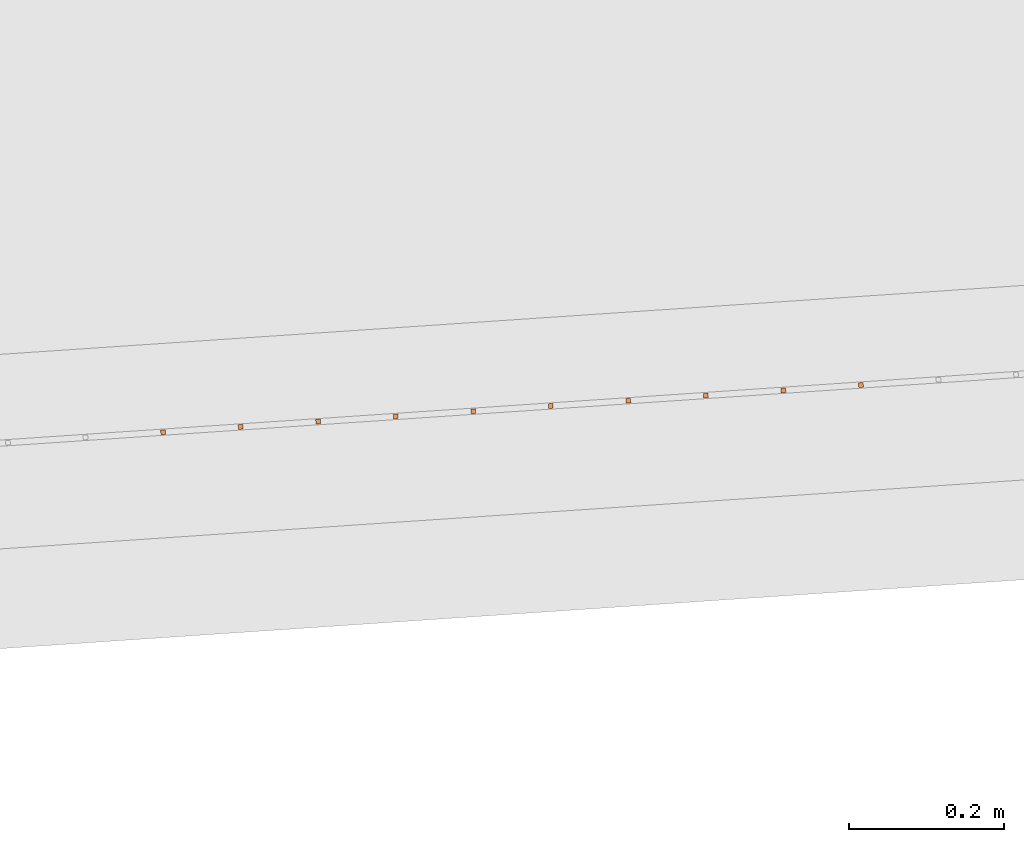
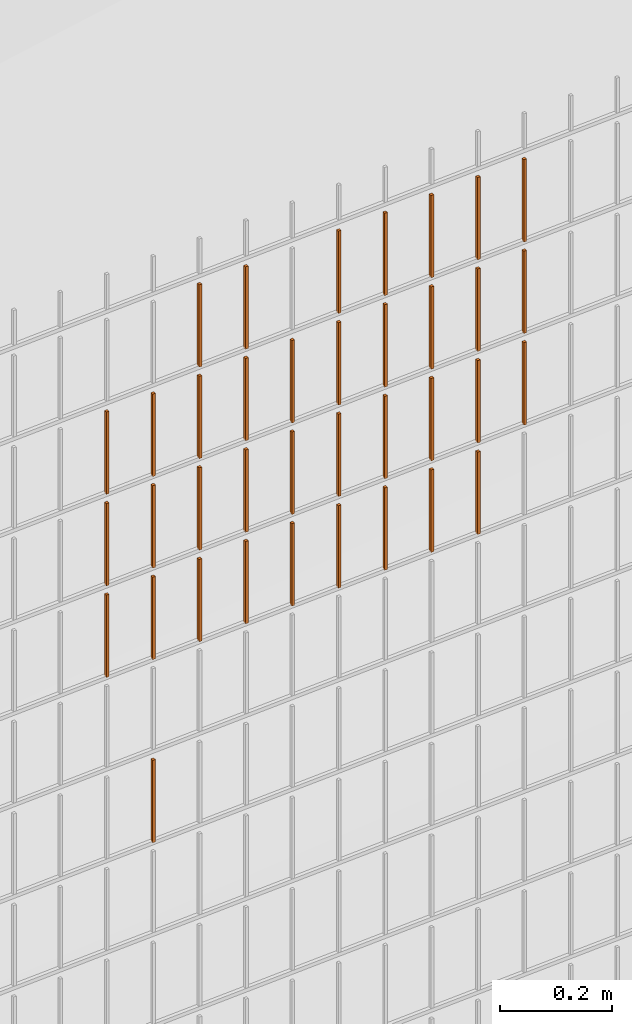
# One storey, part 143 of 1809: 37 proxies, 1 element without a shape of its own.
"""IFC2X3 building model written with IfcOpenShell, lengths in millimetres."""

import ifcopenshell
import ifcopenshell.guid

model = None  # the IFC model being written
_history = None  # IfcOwnerHistory: only IFC2X3 demands one
_inside = {}  # id of a spatial element -> (the spatial element, [elements in it])
_under = {}  # id of a project, library or spatial element -> (it, [spatial elements below it])
_declared = {}  # id of a project -> (the project, [libraries it declares])
_typed = {}  # id of a type object -> (the type object, [elements of that type])
_made_of = {}  # id of a material, layer set ... -> (it, [elements and type objects made of it])


def new_model(schema):
    """Start an empty IFC model of exactly this schema.

    Asked for "IFC4X3", IfcOpenShell would pick the latest addendum, in which some entities
    have other attributes; the version numbers below select the first issue.
    IFC2X3 requires an IfcOwnerHistory on every rooted entity: one is made here for all.
    """
    global model, _history
    if schema == "IFC4X3":
        model = ifcopenshell.file(schema_version=(4, 3, 0, 0))
    else:
        model = ifcopenshell.file(schema=schema)
    _inside.clear()
    _under.clear()
    _declared.clear()
    _typed.clear()
    _made_of.clear()
    _history = None
    if model.schema == "IFC2X3":
        org = make("IfcOrganization", Name="unknown")
        user = make(
            "IfcPersonAndOrganization",
            ThePerson=make("IfcPerson", FamilyName="unknown"),
            TheOrganization=org,
        )
        app = make(
            "IfcApplication",
            ApplicationDeveloper=org,
            Version="unknown",
            ApplicationFullName="unknown",
            ApplicationIdentifier="unknown",
        )
        _history = make(
            "IfcOwnerHistory",
            OwningUser=user,
            OwningApplication=app,
            ChangeAction="ADDED",
            CreationDate=0,
        )
    return model


def make(cls, **values):
    """One entity of the class cls with the attributes given. An attribute that is None is left unset."""
    return model.create_entity(
        cls, **{name: value for name, value in values.items() if value is not None}
    )


def entity(cls, *values):
    """Any entity or typed value of the class cls, its attributes in the order of the schema. None: left unset."""
    e = model.create_entity(cls)
    for i, value in enumerate(values):
        if value is not None:
            e[i] = value
    return e


def rooted(cls, **values):
    """An entity with a GlobalId (a new one), such as an element, a storey or a relation."""
    return make(cls, GlobalId=ifcopenshell.guid.new(), OwnerHistory=_history, **values)


def si_unit(unit_type, name, prefix=None):
    """IfcSIUnit, for example si_unit("LENGTHUNIT", "METRE", prefix="MILLI")."""
    return make("IfcSIUnit", UnitType=unit_type, Prefix=prefix, Name=name)


def converted_unit(unit_type, name, factor, base, dimensions=None, offset=None):
    """IfcConversionBasedUnit, such as the inch: factor (a typed value) times the base unit."""
    return make(
        "IfcConversionBasedUnit"
        if offset is None
        else "IfcConversionBasedUnitWithOffset",
        ConversionOffset=offset,
        Dimensions=None
        if dimensions is None
        else entity("IfcDimensionalExponents", *dimensions),
        UnitType=unit_type,
        Name=name,
        ConversionFactor=make(
            "IfcMeasureWithUnit", ValueComponent=factor, UnitComponent=base
        ),
    )


def derived_unit(unit_type, elements):
    """IfcDerivedUnit: a product of units, each with its exponent."""
    return make(
        "IfcDerivedUnit",
        Elements=[
            make("IfcDerivedUnitElement", Unit=unit, Exponent=power)
            for unit, power in elements
        ],
        UnitType=unit_type,
    )


def money_unit(currency):
    """IfcMonetaryUnit."""
    return make("IfcMonetaryUnit", Currency=currency)


def assignment(units):
    """IfcUnitAssignment: the units of a project."""
    return None if units is None else make("IfcUnitAssignment", Units=units)


def point(xyz):
    """IfcCartesianPoint."""
    return None if xyz is None else make("IfcCartesianPoint", Coordinates=xyz)


def direction(xyz):
    """IfcDirection."""
    return None if xyz is None else make("IfcDirection", DirectionRatios=xyz)


def frame(location, z_axis=None, x_axis=None):
    """IfcAxis2Placement3D, a coordinate frame: its origin and axes. An axis left out is left unset."""
    return make(
        "IfcAxis2Placement3D",
        Location=point(location),
        Axis=direction(z_axis),
        RefDirection=direction(x_axis),
    )


def origin_with_axes():
    """The frame at (0, 0, 0) with the z axis (0, 0, 1) and the x axis (1, 0, 0) written out."""
    return frame((0.0, 0.0, 0.0), z_axis=(0.0, 0.0, 1.0), x_axis=(1.0, 0.0, 0.0))


def place(relative_to, where):
    """IfcLocalPlacement: puts the frame where relative to a parent placement (None: the world)."""
    return make(
        "IfcLocalPlacement", PlacementRelTo=relative_to, RelativePlacement=where
    )


def context(
    kind, dimensions, precision=None, world=None, true_north=None, identifier=None
):
    """IfcGeometricRepresentationContext, for example the 3D "Model" context."""
    return make(
        "IfcGeometricRepresentationContext",
        ContextIdentifier=identifier,
        ContextType=kind,
        CoordinateSpaceDimension=dimensions,
        Precision=precision,
        WorldCoordinateSystem=world,
        TrueNorth=true_north,
    )


def subcontext(parent, identifier, kind, view, scale=None):
    """IfcGeometricRepresentationSubContext, for example "Body" below "Model"."""
    return make(
        "IfcGeometricRepresentationSubContext",
        ContextIdentifier=identifier,
        ContextType=kind,
        ParentContext=parent,
        TargetScale=scale,
        TargetView=view,
    )


def project(units=None, contexts=None):
    """IfcProject with its units and contexts."""
    return rooted(
        "IfcProject",
        Name="project",
        RepresentationContexts=contexts,
        UnitsInContext=assignment(units),
    )


def spatial(cls, under=None, at=None, **own):
    """A site, building, storey or space (cls), placed at a placement, below another one or the project."""
    s = rooted(cls, ObjectPlacement=at, **own)
    if under is not None:
        _under.setdefault(under.id(), (under, []))[1].append(s)
    return s


def faces_of(points, faces, orient=None, outer=None):
    """IfcFace entities. A face is a list of loops; a loop is a list of indices into points, from 0.

    orient and outer hold one flag for each loop. By default every Orientation is true, the
    first loop of a face is its IfcFaceOuterBound and the others are IfcFaceBound.
    """
    made = []
    for i, loops in enumerate(faces):
        bounds = []
        for j, loop in enumerate(loops):
            is_outer = j == 0 if outer is None else outer[i][j]
            bounds.append(
                make(
                    "IfcFaceOuterBound" if is_outer else "IfcFaceBound",
                    Bound=make("IfcPolyLoop", Polygon=[points[k] for k in loop]),
                    Orientation=True if orient is None else orient[i][j],
                )
            )
        made.append(make("IfcFace", Bounds=bounds))
    return made


def faceted_brep(points, faces, orient=None, outer=None, voids=None):
    """IfcFacetedBrep: a solid bounded by flat faces; with voids (closed shells), ...WithVoids."""
    shared = [point(p) for p in points]
    hull = make("IfcClosedShell", CfsFaces=faces_of(shared, faces, orient, outer))
    if voids is None:
        return make("IfcFacetedBrep", Outer=hull)
    return make(
        "IfcFacetedBrepWithVoids",
        Outer=hull,
        Voids=[
            make(cls, CfsFaces=faces_of(shared, fs, o, b)) for cls, fs, o, b in voids
        ],
    )


def shape(context_of_items, identifier, shape_type, items):
    """IfcShapeRepresentation: the items that make up one representation, for example the "Body"."""
    return make(
        "IfcShapeRepresentation",
        ContextOfItems=context_of_items,
        RepresentationIdentifier=identifier,
        RepresentationType=shape_type,
        Items=items,
    )


def source(mapping_origin, context_of_items, identifier, shape_type, items):
    """IfcRepresentationMap: a shape defined once, which mapped items show again and again."""
    return make(
        "IfcRepresentationMap",
        MappingOrigin=mapping_origin,
        MappedRepresentation=shape(context_of_items, identifier, shape_type, items),
    )


def transform(
    local_origin,
    x_axis=None,
    y_axis=None,
    z_axis=None,
    scale=None,
    scale2=None,
    scale3=None,
    uniform=True,
):
    """IfcCartesianTransformationOperator3D, or its non-uniform kind. x_axis, y_axis, z_axis: its Axis1, 2, 3."""
    if uniform:
        return make(
            "IfcCartesianTransformationOperator3D",
            Axis1=direction(x_axis),
            Axis2=direction(y_axis),
            LocalOrigin=point(local_origin),
            Scale=scale,
            Axis3=direction(z_axis),
        )
    return make(
        "IfcCartesianTransformationOperator3DnonUniform",
        Axis1=direction(x_axis),
        Axis2=direction(y_axis),
        LocalOrigin=point(local_origin),
        Scale=scale,
        Axis3=direction(z_axis),
        Scale2=scale2,
        Scale3=scale3,
    )


def mapped(mapping_source, mapping_target):
    """IfcMappedItem: shows the shape of a source again, moved by a transform."""
    return make(
        "IfcMappedItem", MappingSource=mapping_source, MappingTarget=mapping_target
    )


def material(Name=None, Category=None):
    """IfcMaterial."""
    return make("IfcMaterial", Name=Name, Category=Category)


def made_of(thing, what):
    """Note that an element or type object is made of a material, layer set ...; save() writes the relation."""
    if what is not None:
        _made_of.setdefault(what.id(), (what, []))[1].append(thing)
    return thing


def type_object(cls, material=None, **own):
    """A type object (cls), such as IfcWallType, which elements share."""
    return made_of(rooted(cls, **own), material)


def element(
    cls,
    number,
    at=None,
    inside=None,
    cuts=None,
    type_object=None,
    material=None,
    context=None,
    identifier="Body",
    shape_type=None,
    held_by="IfcProductDefinitionShape",
    body=None,
    shapes=None,
    **own,
):
    """One element of the class cls, such as IfcWall. Its Tag is "e" and its number.

    at: its placement. inside: the storey or other place that contains it. cuts: it is an
    opening in that element (IfcRelVoidsElement). A single representation is given by context,
    identifier, shape_type and body (its items); several are given by shapes. held_by: the class
    of the entity that holds the representations. save() writes the other relations.
    """
    e = rooted(cls, Tag="e%d" % number, ObjectPlacement=at, **own)
    if body is not None:
        shapes = [shape(context, identifier, shape_type, body)]
    if shapes is not None:
        e.Representation = make(held_by, Representations=shapes)
    if inside is not None:
        _inside.setdefault(inside.id(), (inside, []))[1].append(e)
    if cuts is not None:
        rooted(
            "IfcRelVoidsElement", RelatingBuildingElement=cuts, RelatedOpeningElement=e
        )
    if type_object is not None:
        _typed.setdefault(type_object.id(), (type_object, []))[1].append(e)
    return made_of(e, material)


def aggregate(whole, parts):
    """IfcRelAggregates: a whole, such as a stair, and the parts it consists of."""
    return rooted("IfcRelAggregates", RelatingObject=whole, RelatedObjects=parts)


def save(model, path):
    """Write the relations noted so far, then the file.

    IfcRelAggregates (storeys below a building ...), IfcRelContainedInSpatialStructure (elements
    in a storey), IfcRelDefinesByType, IfcRelAssociatesMaterial and IfcRelDeclares: one each for
    every whole, place, type object, material and project.
    """
    for whole, parts in _under.values():
        aggregate(whole, parts)
    for where, things in _inside.values():
        rooted(
            "IfcRelContainedInSpatialStructure",
            RelatedElements=things,
            RelatingStructure=where,
        )
    for kind, things in _typed.values():
        rooted("IfcRelDefinesByType", RelatedObjects=things, RelatingType=kind)
    for what, things in _made_of.values():
        rooted("IfcRelAssociatesMaterial", RelatedObjects=things, RelatingMaterial=what)
    for by, libraries in _declared.values():
        rooted("IfcRelDeclares", RelatingContext=by, RelatedDefinitions=libraries)
    model.write(path)


model = new_model("IFC2X3")

# Units and contexts
model_context = context("Model", 3, precision=0.01, world=origin_with_axes(), true_north=direction((0.0, 1.0)))
body_context = subcontext(model_context, "Body", "Model", "MODEL_VIEW")
ifc_project = project(units=[si_unit("LENGTHUNIT", "METRE", prefix="MILLI"), si_unit("AREAUNIT", "SQUARE_METRE"), si_unit("VOLUMEUNIT", "CUBIC_METRE"), converted_unit("PLANEANGLEUNIT", "DEGREE", entity("IfcPlaneAngleMeasure", 0.0174532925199), si_unit("PLANEANGLEUNIT", "RADIAN"), dimensions=[0, 0, 0, 0, 0, 0, 0]), si_unit("SOLIDANGLEUNIT", "STERADIAN"), money_unit("EUR"), converted_unit("TIMEUNIT", "Year", entity("IfcTimeMeasure", 31556926.0), si_unit("TIMEUNIT", "SECOND"), dimensions=[0, 0, 1, 0, 0, 0, 0]), si_unit("MASSUNIT", "GRAM", prefix="KILO"), si_unit("THERMODYNAMICTEMPERATUREUNIT", "DEGREE_CELSIUS"), si_unit("LUMINOUSINTENSITYUNIT", "LUMEN"), si_unit("ENERGYUNIT", "JOULE", prefix="MEGA"), derived_unit("THERMALCONDUCTANCEUNIT", [(si_unit("POWERUNIT", "WATT"), 1), (si_unit("LENGTHUNIT", "METRE"), -1), (si_unit("THERMODYNAMICTEMPERATUREUNIT", "KELVIN"), -1)]), derived_unit("SPECIFICHEATCAPACITYUNIT", [(si_unit("ENERGYUNIT", "JOULE"), 1), (si_unit("MASSUNIT", "GRAM", prefix="KILO"), -1), (si_unit("THERMODYNAMICTEMPERATUREUNIT", "KELVIN"), -1)]), derived_unit("MASSDENSITYUNIT", [(si_unit("MASSUNIT", "GRAM", prefix="KILO"), 1), (si_unit("VOLUMEUNIT", "CUBIC_METRE"), -1)])], contexts=[model_context])

# Site, building, storey
site_placement = place(None, origin_with_axes())
site = spatial("IfcSite", under=ifc_project, at=site_placement, Name="Politse- ja Piirivalveameti ning Päästeameti ühishoone", CompositionType="ELEMENT")
building_placement = place(site_placement, origin_with_axes())
building = spatial("IfcBuilding", under=site, at=building_placement, Name="Politse- ja Piirivalveameti ning Päästeameti ühishoone", CompositionType="ELEMENT")
storey_placement = place(building_placement, origin_with_axes())
storey = spatial("IfcBuildingStorey", under=building, at=storey_placement, Name="Esimene korrus", CompositionType="ELEMENT", Elevation=0.0)

# Proxies
building_element_proxy_type_1 = type_object("IfcBuildingElementProxyType", Name="Railing Type", PredefinedType="NOTDEFINED")
proxy_1_placement = place(storey_placement, frame((89252.001212, -29183.4766571, 203.661247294), z_axis=(0.0, 0.0, 1.0), x_axis=(1.0, 0.0, 0.0)))
proxy_1 = element("IfcBuildingElementProxy", 1, at=proxy_1_placement, inside=storey, type_object=building_element_proxy_type_1, Name="PIIRDEAED")
ifc_material = material(Name="ET-03_Raud")
building_element_proxy_type_2 = type_object("IfcBuildingElementProxyType", Name="IfcBuildingElementProxy", PredefinedType="NOTDEFINED")
shared_shape_1 = source(origin_with_axes(), body_context, "Body", "Brep", [
    faceted_brep([(3.0, 3.0, -0.000752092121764), (-3.0, 3.0, -0.000752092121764), (-3.0, 3.0, 179.99926046), (3.0, 3.0, 179.99926046), (3.0, -3.0, 0.000752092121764), (-3.0, -3.0, 0.000752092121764), (-3.0, -3.0, 180.000764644), (3.0, -3.0, 180.000764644)], [[[0, 1, 2, 3]], [[0, 4, 5, 1]], [[1, 5, 6, 2]], [[3, 2, 6, 7]], [[4, 0, 3, 7]], [[5, 4, 7, 6]]]),
])
proxy_2_placement = place(proxy_1_placement, frame((-85432.0182831, -23068.3851878, 1205.7679997), z_axis=(0.0, 0.0, 1.0), x_axis=(1.0, 0.0, 0.0)))
proxy_2 = element("IfcBuildingElementProxy", 2, at=proxy_2_placement, type_object=building_element_proxy_type_2, material=ifc_material, Name="BALUSTER - 001", context=body_context, shape_type="MappedRepresentation", body=[
    mapped(shared_shape_1, transform((0.0, 0.0, 0.0), x_axis=(-0.0673926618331, 0.997726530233, 0.0), y_axis=(-0.997726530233, -0.0673926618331, 0.0), z_axis=(0.0, 0.0, 1.0))),
])
shared_shape_2 = source(origin_with_axes(), body_context, "Body", "Brep", [
    faceted_brep([(3.0, 3.0, -0.000752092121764), (-3.0, 3.0, -0.000752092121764), (-3.0, 3.0, 179.99926046), (3.0, 3.0, 179.99926046), (3.0, -3.0, 0.000752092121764), (-3.0, -3.0, 0.000752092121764), (-3.0, -3.0, 180.000764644), (3.0, -3.0, 180.000764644)], [[[0, 1, 2, 3]], [[0, 4, 5, 1]], [[1, 5, 6, 2]], [[3, 2, 6, 7]], [[4, 0, 3, 7]], [[5, 4, 7, 6]]]),
])
proxy_3_placement = place(proxy_1_placement, frame((-85432.0182831, -23068.3851878, 1405.7679997), z_axis=(0.0, 0.0, 1.0), x_axis=(1.0, 0.0, 0.0)))
proxy_3 = element("IfcBuildingElementProxy", 3, at=proxy_3_placement, type_object=building_element_proxy_type_2, material=ifc_material, Name="BALUSTER - 001", context=body_context, shape_type="MappedRepresentation", body=[
    mapped(shared_shape_2, transform((0.0, 0.0, 0.0), x_axis=(-0.0673926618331, 0.997726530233, 0.0), y_axis=(-0.997726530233, -0.0673926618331, 0.0), z_axis=(0.0, 0.0, 1.0))),
])
proxy_4_placement = place(proxy_1_placement, frame((-85432.0182831, -23068.3851878, 1605.7679997), z_axis=(0.0, 0.0, 1.0), x_axis=(1.0, 0.0, 0.0)))
proxy_4 = element("IfcBuildingElementProxy", 4, at=proxy_4_placement, type_object=building_element_proxy_type_2, material=ifc_material, Name="BALUSTER - 001", context=body_context, shape_type="MappedRepresentation", body=[
    mapped(shared_shape_2, transform((0.0, 0.0, 0.0), x_axis=(-0.0673926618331, 0.997726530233, 0.0), y_axis=(-0.997726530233, -0.0673926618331, 0.0), z_axis=(0.0, 0.0, 1.0))),
])
shared_shape_3 = source(origin_with_axes(), body_context, "Body", "Brep", [
    faceted_brep([(3.0, 3.0, -0.000752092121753), (-3.0, 3.0, -0.000752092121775), (-3.0, 3.0, 179.99926046), (3.0, 3.0, 179.99926046), (3.0, -3.0, 0.000752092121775), (-3.0, -3.0, 0.000752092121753), (-3.0, -3.0, 180.000764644), (3.0, -3.0, 180.000764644)], [[[0, 1, 2, 3]], [[0, 4, 5, 1]], [[1, 5, 6, 2]], [[3, 2, 6, 7]], [[4, 0, 3, 7]], [[5, 4, 7, 6]]]),
])
proxy_5_placement = place(proxy_1_placement, frame((-86130.4268543, -23115.5600511, 1205.59251154), z_axis=(0.0, 0.0, 1.0), x_axis=(1.0, 0.0, 0.0)))
proxy_5 = element("IfcBuildingElementProxy", 5, at=proxy_5_placement, type_object=building_element_proxy_type_2, material=ifc_material, Name="BALUSTER - 001", context=body_context, shape_type="MappedRepresentation", body=[
    mapped(shared_shape_3, transform((0.0, 0.0, 0.0), x_axis=(-0.0673926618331, 0.997726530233, 0.0), y_axis=(-0.997726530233, -0.0673926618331, 0.0), z_axis=(0.0, 0.0, 1.0))),
])
shared_shape_4 = source(origin_with_axes(), body_context, "Body", "Brep", [
    faceted_brep([(3.0, 3.0, -0.000752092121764), (-3.0, 3.0, -0.000752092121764), (-3.0, 3.0, 179.99926046), (3.0, 3.0, 179.99926046), (3.0, -3.0, 0.000752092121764), (-3.0, -3.0, 0.000752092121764), (-3.0, -3.0, 180.000764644), (3.0, -3.0, 180.000764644)], [[[0, 1, 2, 3]], [[0, 4, 5, 1]], [[1, 5, 6, 2]], [[3, 2, 6, 7]], [[4, 0, 3, 7]], [[5, 4, 7, 6]]]),
])
proxy_6_placement = place(proxy_1_placement, frame((-85930.8815483, -23102.0815187, 1205.64265101), z_axis=(0.0, 0.0, 1.0), x_axis=(1.0, 0.0, 0.0)))
proxy_6 = element("IfcBuildingElementProxy", 6, at=proxy_6_placement, type_object=building_element_proxy_type_2, material=ifc_material, Name="BALUSTER - 001", context=body_context, shape_type="MappedRepresentation", body=[
    mapped(shared_shape_4, transform((0.0, 0.0, 0.0), x_axis=(-0.0673926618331, 0.997726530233, 0.0), y_axis=(-0.997726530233, -0.0673926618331, 0.0), z_axis=(0.0, 0.0, 1.0))),
])
shared_shape_5 = source(origin_with_axes(), body_context, "Body", "Brep", [
    faceted_brep([(3.0, 3.0, -0.000752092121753), (-3.0, 3.0, -0.000752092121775), (-3.0, 3.0, 179.99926046), (3.0, 3.0, 179.99926046), (3.0, -3.0, 0.000752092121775), (-3.0, -3.0, 0.000752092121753), (-3.0, -3.0, 180.000764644), (3.0, -3.0, 180.000764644)], [[[0, 1, 2, 3]], [[0, 4, 5, 1]], [[1, 5, 6, 2]], [[3, 2, 6, 7]], [[4, 0, 3, 7]], [[5, 4, 7, 6]]]),
])
proxy_7_placement = place(proxy_1_placement, frame((-86130.4268543, -23115.5600511, 1405.59251154), z_axis=(0.0, 0.0, 1.0), x_axis=(1.0, 0.0, 0.0)))
proxy_7 = element("IfcBuildingElementProxy", 7, at=proxy_7_placement, type_object=building_element_proxy_type_2, material=ifc_material, Name="BALUSTER - 001", context=body_context, shape_type="MappedRepresentation", body=[
    mapped(shared_shape_5, transform((0.0, 0.0, 0.0), x_axis=(-0.0673926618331, 0.997726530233, 0.0), y_axis=(-0.997726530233, -0.0673926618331, 0.0), z_axis=(0.0, 0.0, 1.0))),
])
proxy_8_placement = place(proxy_1_placement, frame((-86130.4268543, -23115.5600511, 1605.59251154), z_axis=(0.0, 0.0, 1.0), x_axis=(1.0, 0.0, 0.0)))
proxy_8 = element("IfcBuildingElementProxy", 8, at=proxy_8_placement, type_object=building_element_proxy_type_2, material=ifc_material, Name="BALUSTER - 001", context=body_context, shape_type="MappedRepresentation", body=[
    mapped(shared_shape_5, transform((0.0, 0.0, 0.0), x_axis=(-0.0673926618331, 0.997726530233, 0.0), y_axis=(-0.997726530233, -0.0673926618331, 0.0), z_axis=(0.0, 0.0, 1.0))),
])
shared_shape_6 = source(origin_with_axes(), body_context, "Body", "Brep", [
    faceted_brep([(3.0, 3.0, -0.000752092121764), (-3.0, 3.0, -0.000752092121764), (-3.0, 3.0, 179.99926046), (3.0, 3.0, 179.99926046), (3.0, -3.0, 0.000752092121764), (-3.0, -3.0, 0.000752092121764), (-3.0, -3.0, 180.000764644), (3.0, -3.0, 180.000764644)], [[[0, 1, 2, 3]], [[0, 4, 5, 1]], [[1, 5, 6, 2]], [[3, 2, 6, 7]], [[4, 0, 3, 7]], [[5, 4, 7, 6]]]),
])
proxy_9_placement = place(proxy_1_placement, frame((-85930.8815483, -23102.0815187, 1405.64265101), z_axis=(0.0, 0.0, 1.0), x_axis=(1.0, 0.0, 0.0)))
proxy_9 = element("IfcBuildingElementProxy", 9, at=proxy_9_placement, type_object=building_element_proxy_type_2, material=ifc_material, Name="BALUSTER - 001", context=body_context, shape_type="MappedRepresentation", body=[
    mapped(shared_shape_6, transform((0.0, 0.0, 0.0), x_axis=(-0.0673926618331, 0.997726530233, 0.0), y_axis=(-0.997726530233, -0.0673926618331, 0.0), z_axis=(0.0, 0.0, 1.0))),
])
proxy_10_placement = place(proxy_1_placement, frame((-85930.8815483, -23102.0815187, 1605.64265101), z_axis=(0.0, 0.0, 1.0), x_axis=(1.0, 0.0, 0.0)))
proxy_10 = element("IfcBuildingElementProxy", 10, at=proxy_10_placement, type_object=building_element_proxy_type_2, material=ifc_material, Name="BALUSTER - 001", context=body_context, shape_type="MappedRepresentation", body=[
    mapped(shared_shape_6, transform((0.0, 0.0, 0.0), x_axis=(-0.0673926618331, 0.997726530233, 0.0), y_axis=(-0.997726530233, -0.0673926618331, 0.0), z_axis=(0.0, 0.0, 1.0))),
])
shared_shape_7 = source(origin_with_axes(), body_context, "Body", "Brep", [
    faceted_brep([(3.0, 3.0, -0.000752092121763), (-3.0, 3.0, -0.000752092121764), (-3.0, 3.0, 179.99926046), (3.0, 3.0, 179.99926046), (3.0, -3.0, 0.000752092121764), (-3.0, -3.0, 0.000752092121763), (-3.0, -3.0, 180.000764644), (3.0, -3.0, 180.000764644)], [[[0, 1, 2, 3]], [[0, 4, 5, 1]], [[1, 5, 6, 2]], [[3, 2, 6, 7]], [[4, 0, 3, 7]], [[5, 4, 7, 6]]]),
])
proxy_11_placement = place(proxy_1_placement, frame((-85631.5635892, -23081.8637202, 1805.71786022), z_axis=(0.0, 0.0, 1.0), x_axis=(1.0, 0.0, 0.0)))
proxy_11 = element("IfcBuildingElementProxy", 11, at=proxy_11_placement, type_object=building_element_proxy_type_2, material=ifc_material, Name="BALUSTER - 001", context=body_context, shape_type="MappedRepresentation", body=[
    mapped(shared_shape_7, transform((0.0, 0.0, 0.0), x_axis=(-0.0673926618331, 0.997726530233, 0.0), y_axis=(-0.997726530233, -0.0673926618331, 0.0), z_axis=(0.0, 0.0, 1.0))),
])
shared_shape_8 = source(origin_with_axes(), body_context, "Body", "Brep", [
    faceted_brep([(3.0, 3.0, -0.000752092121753), (-3.0, 3.0, -0.000752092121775), (-3.0, 3.0, 179.99926046), (3.0, 3.0, 179.99926046), (3.0, -3.0, 0.000752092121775), (-3.0, -3.0, 0.000752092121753), (-3.0, -3.0, 180.000764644), (3.0, -3.0, 180.000764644)], [[[0, 1, 2, 3]], [[0, 4, 5, 1]], [[1, 5, 6, 2]], [[3, 2, 6, 7]], [[4, 0, 3, 7]], [[5, 4, 7, 6]]]),
])
proxy_12_placement = place(proxy_1_placement, frame((-85531.7909362, -23075.124454, 1205.74292996), z_axis=(0.0, 0.0, 1.0), x_axis=(1.0, 0.0, 0.0)))
proxy_12 = element("IfcBuildingElementProxy", 12, at=proxy_12_placement, type_object=building_element_proxy_type_2, material=ifc_material, Name="BALUSTER - 001", context=body_context, shape_type="MappedRepresentation", body=[
    mapped(shared_shape_8, transform((0.0, 0.0, 0.0), x_axis=(-0.0673926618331, 0.997726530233, 0.0), y_axis=(-0.997726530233, -0.0673926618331, 0.0), z_axis=(0.0, 0.0, 1.0))),
])
shared_shape_9 = source(origin_with_axes(), body_context, "Body", "Brep", [
    faceted_brep([(3.0, 3.0, -0.000752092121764), (-3.0, 3.0, -0.000752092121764), (-3.0, 3.0, 179.99926046), (3.0, 3.0, 179.99926046), (3.0, -3.0, 0.000752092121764), (-3.0, -3.0, 0.000752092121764), (-3.0, -3.0, 180.000764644), (3.0, -3.0, 180.000764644)], [[[0, 1, 2, 3]], [[0, 4, 5, 1]], [[1, 5, 6, 2]], [[3, 2, 6, 7]], [[4, 0, 3, 7]], [[5, 4, 7, 6]]]),
])
proxy_13_placement = place(proxy_1_placement, frame((-85831.1088952, -23095.3422526, 1205.66772075), z_axis=(0.0, 0.0, 1.0), x_axis=(1.0, 0.0, 0.0)))
proxy_13 = element("IfcBuildingElementProxy", 13, at=proxy_13_placement, type_object=building_element_proxy_type_2, material=ifc_material, Name="BALUSTER - 001", context=body_context, shape_type="MappedRepresentation", body=[
    mapped(shared_shape_9, transform((0.0, 0.0, 0.0), x_axis=(-0.0673926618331, 0.997726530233, 0.0), y_axis=(-0.997726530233, -0.0673926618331, 0.0), z_axis=(0.0, 0.0, 1.0))),
])
shared_shape_10 = source(origin_with_axes(), body_context, "Body", "Brep", [
    faceted_brep([(3.0, 3.0, -0.000752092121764), (-3.0, 3.0, -0.000752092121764), (-3.0, 3.0, 179.99926046), (3.0, 3.0, 179.99926046), (3.0, -3.0, 0.000752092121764), (-3.0, -3.0, 0.000752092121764), (-3.0, -3.0, 180.000764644), (3.0, -3.0, 180.000764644)], [[[0, 1, 2, 3]], [[0, 4, 5, 1]], [[1, 5, 6, 2]], [[3, 2, 6, 7]], [[4, 0, 3, 7]], [[5, 4, 7, 6]]]),
])
proxy_14_placement = place(proxy_1_placement, frame((-86030.6542013, -23108.8207849, 805.617581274), z_axis=(0.0, 0.0, 1.0), x_axis=(1.0, 0.0, 0.0)))
proxy_14 = element("IfcBuildingElementProxy", 14, at=proxy_14_placement, type_object=building_element_proxy_type_2, material=ifc_material, Name="BALUSTER - 001", context=body_context, shape_type="MappedRepresentation", body=[
    mapped(shared_shape_10, transform((0.0, 0.0, 0.0), x_axis=(-0.0673926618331, 0.997726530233, 0.0), y_axis=(-0.997726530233, -0.0673926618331, 0.0), z_axis=(0.0, 0.0, 1.0))),
])
shared_shape_11 = source(origin_with_axes(), body_context, "Body", "Brep", [
    faceted_brep([(3.0, 3.0, -0.000752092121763), (-3.0, 3.0, -0.000752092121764), (-3.0, 3.0, 179.99926046), (3.0, 3.0, 179.99926046), (3.0, -3.0, 0.000752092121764), (-3.0, -3.0, 0.000752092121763), (-3.0, -3.0, 180.000764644), (3.0, -3.0, 180.000764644)], [[[0, 1, 2, 3]], [[0, 4, 5, 1]], [[1, 5, 6, 2]], [[3, 2, 6, 7]], [[4, 0, 3, 7]], [[5, 4, 7, 6]]]),
])
proxy_15_placement = place(proxy_1_placement, frame((-85930.8815483, -23102.0815187, 1805.64265101), z_axis=(0.0, 0.0, 1.0), x_axis=(1.0, 0.0, 0.0)))
proxy_15 = element("IfcBuildingElementProxy", 15, at=proxy_15_placement, type_object=building_element_proxy_type_2, material=ifc_material, Name="BALUSTER - 001", context=body_context, shape_type="MappedRepresentation", body=[
    mapped(shared_shape_11, transform((0.0, 0.0, 0.0), x_axis=(-0.0673926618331, 0.997726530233, 0.0), y_axis=(-0.997726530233, -0.0673926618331, 0.0), z_axis=(0.0, 0.0, 1.0))),
])
shared_shape_12 = source(origin_with_axes(), body_context, "Body", "Brep", [
    faceted_brep([(3.0, 3.0, -0.000752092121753), (-3.0, 3.0, -0.000752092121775), (-3.0, 3.0, 179.99926046), (3.0, 3.0, 179.99926046), (3.0, -3.0, 0.000752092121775), (-3.0, -3.0, 0.000752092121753), (-3.0, -3.0, 180.000764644), (3.0, -3.0, 180.000764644)], [[[0, 1, 2, 3]], [[0, 4, 5, 1]], [[1, 5, 6, 2]], [[3, 2, 6, 7]], [[4, 0, 3, 7]], [[5, 4, 7, 6]]]),
])
proxy_16_placement = place(proxy_1_placement, frame((-85332.2456301, -23061.6459216, 1205.79306944), z_axis=(0.0, 0.0, 1.0), x_axis=(1.0, 0.0, 0.0)))
proxy_16 = element("IfcBuildingElementProxy", 16, at=proxy_16_placement, type_object=building_element_proxy_type_2, material=ifc_material, Name="BALUSTER - 001", context=body_context, shape_type="MappedRepresentation", body=[
    mapped(shared_shape_12, transform((0.0, 0.0, 0.0), x_axis=(-0.0673926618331, 0.997726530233, 0.0), y_axis=(-0.997726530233, -0.0673926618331, 0.0), z_axis=(0.0, 0.0, 1.0))),
])
proxy_17_placement = place(proxy_1_placement, frame((-85531.7909362, -23075.124454, 1805.74292996), z_axis=(0.0, 0.0, 1.0), x_axis=(1.0, 0.0, 0.0)))
proxy_17 = element("IfcBuildingElementProxy", 17, at=proxy_17_placement, type_object=building_element_proxy_type_2, material=ifc_material, Name="BALUSTER - 001", context=body_context, shape_type="MappedRepresentation", body=[
    mapped(shared_shape_12, transform((0.0, 0.0, 0.0), x_axis=(-0.0673926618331, 0.997726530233, 0.0), y_axis=(-0.997726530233, -0.0673926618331, 0.0), z_axis=(0.0, 0.0, 1.0))),
])
shared_shape_13 = source(origin_with_axes(), body_context, "Body", "Brep", [
    faceted_brep([(3.0, 3.0, -0.000752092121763), (-3.0, 3.0, -0.000752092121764), (-3.0, 3.0, 179.99926046), (3.0, 3.0, 179.99926046), (3.0, -3.0, 0.000752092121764), (-3.0, -3.0, 0.000752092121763), (-3.0, -3.0, 180.000764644), (3.0, -3.0, 180.000764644)], [[[0, 1, 2, 3]], [[0, 4, 5, 1]], [[1, 5, 6, 2]], [[3, 2, 6, 7]], [[4, 0, 3, 7]], [[5, 4, 7, 6]]]),
])
proxy_18_placement = place(proxy_1_placement, frame((-85631.5635892, -23081.8637202, 1205.71786022), z_axis=(0.0, 0.0, 1.0), x_axis=(1.0, 0.0, 0.0)))
proxy_18 = element("IfcBuildingElementProxy", 18, at=proxy_18_placement, type_object=building_element_proxy_type_2, material=ifc_material, Name="BALUSTER - 001", context=body_context, shape_type="MappedRepresentation", body=[
    mapped(shared_shape_13, transform((0.0, 0.0, 0.0), x_axis=(-0.0673926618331, 0.997726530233, 0.0), y_axis=(-0.997726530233, -0.0673926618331, 0.0), z_axis=(0.0, 0.0, 1.0))),
])
proxy_19_placement = place(proxy_1_placement, frame((-85432.0182831, -23068.3851878, 1805.7679997), z_axis=(0.0, 0.0, 1.0), x_axis=(1.0, 0.0, 0.0)))
proxy_19 = element("IfcBuildingElementProxy", 19, at=proxy_19_placement, type_object=building_element_proxy_type_2, material=ifc_material, Name="BALUSTER - 001", context=body_context, shape_type="MappedRepresentation", body=[
    mapped(shared_shape_13, transform((0.0, 0.0, 0.0), x_axis=(-0.0673926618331, 0.997726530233, 0.0), y_axis=(-0.997726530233, -0.0673926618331, 0.0), z_axis=(0.0, 0.0, 1.0))),
])
shared_shape_14 = source(origin_with_axes(), body_context, "Body", "Brep", [
    faceted_brep([(3.0, 3.0, -0.000752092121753), (-3.0, 3.0, -0.000752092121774), (-3.0, 3.0, 179.99926046), (3.0, 3.0, 179.99926046), (3.0, -3.0, 0.000752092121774), (-3.0, -3.0, 0.000752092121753), (-3.0, -3.0, 180.000764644), (3.0, -3.0, 180.000764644)], [[[0, 1, 2, 3]], [[0, 4, 5, 1]], [[1, 5, 6, 2]], [[3, 2, 6, 7]], [[4, 0, 3, 7]], [[5, 4, 7, 6]]]),
])
proxy_20_placement = place(proxy_1_placement, frame((-85731.3362422, -23088.6029864, 1205.69279049), z_axis=(0.0, 0.0, 1.0), x_axis=(1.0, 0.0, 0.0)))
proxy_20 = element("IfcBuildingElementProxy", 20, at=proxy_20_placement, type_object=building_element_proxy_type_2, material=ifc_material, Name="BALUSTER - 001", context=body_context, shape_type="MappedRepresentation", body=[
    mapped(shared_shape_14, transform((0.0, 0.0, 0.0), x_axis=(-0.0673926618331, 0.997726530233, 0.0), y_axis=(-0.997726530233, -0.0673926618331, 0.0), z_axis=(0.0, 0.0, 1.0))),
])
shared_shape_15 = source(origin_with_axes(), body_context, "Body", "Brep", [
    faceted_brep([(3.0, 3.0, -0.000752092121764), (-3.0, 3.0, -0.000752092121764), (-3.0, 3.0, 179.99926046), (3.0, 3.0, 179.99926046), (3.0, -3.0, 0.000752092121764), (-3.0, -3.0, 0.000752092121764), (-3.0, -3.0, 180.000764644), (3.0, -3.0, 180.000764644)], [[[0, 1, 2, 3]], [[0, 4, 5, 1]], [[1, 5, 6, 2]], [[3, 2, 6, 7]], [[4, 0, 3, 7]], [[5, 4, 7, 6]]]),
])
proxy_21_placement = place(proxy_1_placement, frame((-86030.6542013, -23108.8207849, 1205.61758127), z_axis=(0.0, 0.0, 1.0), x_axis=(1.0, 0.0, 0.0)))
proxy_21 = element("IfcBuildingElementProxy", 21, at=proxy_21_placement, type_object=building_element_proxy_type_2, material=ifc_material, Name="BALUSTER - 001", context=body_context, shape_type="MappedRepresentation", body=[
    mapped(shared_shape_15, transform((0.0, 0.0, 0.0), x_axis=(-0.0673926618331, 0.997726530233, 0.0), y_axis=(-0.997726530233, -0.0673926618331, 0.0), z_axis=(0.0, 0.0, 1.0))),
])
proxy_22_placement = place(proxy_1_placement, frame((-85831.1088952, -23095.3422526, 1805.66772075), z_axis=(0.0, 0.0, 1.0), x_axis=(1.0, 0.0, 0.0)))
proxy_22 = element("IfcBuildingElementProxy", 22, at=proxy_22_placement, type_object=building_element_proxy_type_2, material=ifc_material, Name="BALUSTER - 001", context=body_context, shape_type="MappedRepresentation", body=[
    mapped(shared_shape_15, transform((0.0, 0.0, 0.0), x_axis=(-0.0673926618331, 0.997726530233, 0.0), y_axis=(-0.997726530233, -0.0673926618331, 0.0), z_axis=(0.0, 0.0, 1.0))),
])
shared_shape_16 = source(origin_with_axes(), body_context, "Body", "Brep", [
    faceted_brep([(3.0, 3.0, -0.000752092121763), (-3.0, 3.0, -0.000752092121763), (-3.0, 3.0, 179.99926046), (3.0, 3.0, 179.99926046), (3.0, -3.0, 0.000752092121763), (-3.0, -3.0, 0.000752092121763), (-3.0, -3.0, 180.000764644), (3.0, -3.0, 180.000764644)], [[[0, 1, 2, 3]], [[0, 4, 5, 1]], [[1, 5, 6, 2]], [[3, 2, 6, 7]], [[4, 0, 3, 7]], [[5, 4, 7, 6]]]),
])
proxy_23_placement = place(proxy_1_placement, frame((-85232.4729771, -23054.9066555, 1405.81813917), z_axis=(0.0, 0.0, 1.0), x_axis=(1.0, 0.0, 0.0)))
proxy_23 = element("IfcBuildingElementProxy", 23, at=proxy_23_placement, type_object=building_element_proxy_type_2, material=ifc_material, Name="BALUSTER - 001", context=body_context, shape_type="MappedRepresentation", body=[
    mapped(shared_shape_16, transform((0.0, 0.0, 0.0), x_axis=(-0.0673926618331, 0.997726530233, 0.0), y_axis=(-0.997726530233, -0.0673926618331, 0.0), z_axis=(0.0, 0.0, 1.0))),
])
proxy_24_placement = place(proxy_1_placement, frame((-85232.4729771, -23054.9066555, 1605.81813917), z_axis=(0.0, 0.0, 1.0), x_axis=(1.0, 0.0, 0.0)))
proxy_24 = element("IfcBuildingElementProxy", 24, at=proxy_24_placement, type_object=building_element_proxy_type_2, material=ifc_material, Name="BALUSTER - 001", context=body_context, shape_type="MappedRepresentation", body=[
    mapped(shared_shape_16, transform((0.0, 0.0, 0.0), x_axis=(-0.0673926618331, 0.997726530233, 0.0), y_axis=(-0.997726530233, -0.0673926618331, 0.0), z_axis=(0.0, 0.0, 1.0))),
])
shared_shape_17 = source(origin_with_axes(), body_context, "Body", "Brep", [
    faceted_brep([(3.0, 3.0, -0.000752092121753), (-3.0, 3.0, -0.000752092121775), (-3.0, 3.0, 179.99926046), (3.0, 3.0, 179.99926046), (3.0, -3.0, 0.000752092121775), (-3.0, -3.0, 0.000752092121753), (-3.0, -3.0, 180.000764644), (3.0, -3.0, 180.000764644)], [[[0, 1, 2, 3]], [[0, 4, 5, 1]], [[1, 5, 6, 2]], [[3, 2, 6, 7]], [[4, 0, 3, 7]], [[5, 4, 7, 6]]]),
])
proxy_25_placement = place(proxy_1_placement, frame((-85332.2456301, -23061.6459216, 1405.79306944), z_axis=(0.0, 0.0, 1.0), x_axis=(1.0, 0.0, 0.0)))
proxy_25 = element("IfcBuildingElementProxy", 25, at=proxy_25_placement, type_object=building_element_proxy_type_2, material=ifc_material, Name="BALUSTER - 001", context=body_context, shape_type="MappedRepresentation", body=[
    mapped(shared_shape_17, transform((0.0, 0.0, 0.0), x_axis=(-0.0673926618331, 0.997726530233, 0.0), y_axis=(-0.997726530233, -0.0673926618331, 0.0), z_axis=(0.0, 0.0, 1.0))),
])
proxy_26_placement = place(proxy_1_placement, frame((-85332.2456301, -23061.6459216, 1605.79306944), z_axis=(0.0, 0.0, 1.0), x_axis=(1.0, 0.0, 0.0)))
proxy_26 = element("IfcBuildingElementProxy", 26, at=proxy_26_placement, type_object=building_element_proxy_type_2, material=ifc_material, Name="BALUSTER - 001", context=body_context, shape_type="MappedRepresentation", body=[
    mapped(shared_shape_17, transform((0.0, 0.0, 0.0), x_axis=(-0.0673926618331, 0.997726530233, 0.0), y_axis=(-0.997726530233, -0.0673926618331, 0.0), z_axis=(0.0, 0.0, 1.0))),
])
shared_shape_18 = source(origin_with_axes(), body_context, "Body", "Brep", [
    faceted_brep([(3.0, 3.0, -0.000752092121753), (-3.0, 3.0, -0.000752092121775), (-3.0, 3.0, 179.99926046), (3.0, 3.0, 179.99926046), (3.0, -3.0, 0.000752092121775), (-3.0, -3.0, 0.000752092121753), (-3.0, -3.0, 180.000764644), (3.0, -3.0, 180.000764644)], [[[0, 1, 2, 3]], [[0, 4, 5, 1]], [[1, 5, 6, 2]], [[3, 2, 6, 7]], [[4, 0, 3, 7]], [[5, 4, 7, 6]]]),
])
proxy_27_placement = place(proxy_1_placement, frame((-85531.7909362, -23075.124454, 1405.74292996), z_axis=(0.0, 0.0, 1.0), x_axis=(1.0, 0.0, 0.0)))
proxy_27 = element("IfcBuildingElementProxy", 27, at=proxy_27_placement, type_object=building_element_proxy_type_2, material=ifc_material, Name="BALUSTER - 001", context=body_context, shape_type="MappedRepresentation", body=[
    mapped(shared_shape_18, transform((0.0, 0.0, 0.0), x_axis=(-0.0673926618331, 0.997726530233, 0.0), y_axis=(-0.997726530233, -0.0673926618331, 0.0), z_axis=(0.0, 0.0, 1.0))),
])
proxy_28_placement = place(proxy_1_placement, frame((-85531.7909362, -23075.124454, 1605.74292996), z_axis=(0.0, 0.0, 1.0), x_axis=(1.0, 0.0, 0.0)))
proxy_28 = element("IfcBuildingElementProxy", 28, at=proxy_28_placement, type_object=building_element_proxy_type_2, material=ifc_material, Name="BALUSTER - 001", context=body_context, shape_type="MappedRepresentation", body=[
    mapped(shared_shape_18, transform((0.0, 0.0, 0.0), x_axis=(-0.0673926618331, 0.997726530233, 0.0), y_axis=(-0.997726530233, -0.0673926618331, 0.0), z_axis=(0.0, 0.0, 1.0))),
])
shared_shape_19 = source(origin_with_axes(), body_context, "Body", "Brep", [
    faceted_brep([(3.0, 3.0, -0.000752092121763), (-3.0, 3.0, -0.000752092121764), (-3.0, 3.0, 179.99926046), (3.0, 3.0, 179.99926046), (3.0, -3.0, 0.000752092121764), (-3.0, -3.0, 0.000752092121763), (-3.0, -3.0, 180.000764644), (3.0, -3.0, 180.000764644)], [[[0, 1, 2, 3]], [[0, 4, 5, 1]], [[1, 5, 6, 2]], [[3, 2, 6, 7]], [[4, 0, 3, 7]], [[5, 4, 7, 6]]]),
])
proxy_29_placement = place(proxy_1_placement, frame((-85631.5635892, -23081.8637202, 1405.71786022), z_axis=(0.0, 0.0, 1.0), x_axis=(1.0, 0.0, 0.0)))
proxy_29 = element("IfcBuildingElementProxy", 29, at=proxy_29_placement, type_object=building_element_proxy_type_2, material=ifc_material, Name="BALUSTER - 001", context=body_context, shape_type="MappedRepresentation", body=[
    mapped(shared_shape_19, transform((0.0, 0.0, 0.0), x_axis=(-0.0673926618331, 0.997726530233, 0.0), y_axis=(-0.997726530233, -0.0673926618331, 0.0), z_axis=(0.0, 0.0, 1.0))),
])
proxy_30_placement = place(proxy_1_placement, frame((-85631.5635892, -23081.8637202, 1605.71786022), z_axis=(0.0, 0.0, 1.0), x_axis=(1.0, 0.0, 0.0)))
proxy_30 = element("IfcBuildingElementProxy", 30, at=proxy_30_placement, type_object=building_element_proxy_type_2, material=ifc_material, Name="BALUSTER - 001", context=body_context, shape_type="MappedRepresentation", body=[
    mapped(shared_shape_19, transform((0.0, 0.0, 0.0), x_axis=(-0.0673926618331, 0.997726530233, 0.0), y_axis=(-0.997726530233, -0.0673926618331, 0.0), z_axis=(0.0, 0.0, 1.0))),
])
shared_shape_20 = source(origin_with_axes(), body_context, "Body", "Brep", [
    faceted_brep([(3.0, 3.0, -0.000752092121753), (-3.0, 3.0, -0.000752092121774), (-3.0, 3.0, 179.99926046), (3.0, 3.0, 179.99926046), (3.0, -3.0, 0.000752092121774), (-3.0, -3.0, 0.000752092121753), (-3.0, -3.0, 180.000764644), (3.0, -3.0, 180.000764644)], [[[0, 1, 2, 3]], [[0, 4, 5, 1]], [[1, 5, 6, 2]], [[3, 2, 6, 7]], [[4, 0, 3, 7]], [[5, 4, 7, 6]]]),
])
proxy_31_placement = place(proxy_1_placement, frame((-85731.3362422, -23088.6029864, 1405.69279049), z_axis=(0.0, 0.0, 1.0), x_axis=(1.0, 0.0, 0.0)))
proxy_31 = element("IfcBuildingElementProxy", 31, at=proxy_31_placement, type_object=building_element_proxy_type_2, material=ifc_material, Name="BALUSTER - 001", context=body_context, shape_type="MappedRepresentation", body=[
    mapped(shared_shape_20, transform((0.0, 0.0, 0.0), x_axis=(-0.0673926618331, 0.997726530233, 0.0), y_axis=(-0.997726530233, -0.0673926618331, 0.0), z_axis=(0.0, 0.0, 1.0))),
])
proxy_32_placement = place(proxy_1_placement, frame((-85731.3362422, -23088.6029864, 1605.69279049), z_axis=(0.0, 0.0, 1.0), x_axis=(1.0, 0.0, 0.0)))
proxy_32 = element("IfcBuildingElementProxy", 32, at=proxy_32_placement, type_object=building_element_proxy_type_2, material=ifc_material, Name="BALUSTER - 001", context=body_context, shape_type="MappedRepresentation", body=[
    mapped(shared_shape_20, transform((0.0, 0.0, 0.0), x_axis=(-0.0673926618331, 0.997726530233, 0.0), y_axis=(-0.997726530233, -0.0673926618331, 0.0), z_axis=(0.0, 0.0, 1.0))),
])
shared_shape_21 = source(origin_with_axes(), body_context, "Body", "Brep", [
    faceted_brep([(3.0, 3.0, -0.000752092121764), (-3.0, 3.0, -0.000752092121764), (-3.0, 3.0, 179.99926046), (3.0, 3.0, 179.99926046), (3.0, -3.0, 0.000752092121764), (-3.0, -3.0, 0.000752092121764), (-3.0, -3.0, 180.000764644), (3.0, -3.0, 180.000764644)], [[[0, 1, 2, 3]], [[0, 4, 5, 1]], [[1, 5, 6, 2]], [[3, 2, 6, 7]], [[4, 0, 3, 7]], [[5, 4, 7, 6]]]),
])
proxy_33_placement = place(proxy_1_placement, frame((-85831.1088952, -23095.3422526, 1405.66772075), z_axis=(0.0, 0.0, 1.0), x_axis=(1.0, 0.0, 0.0)))
proxy_33 = element("IfcBuildingElementProxy", 33, at=proxy_33_placement, type_object=building_element_proxy_type_2, material=ifc_material, Name="BALUSTER - 001", context=body_context, shape_type="MappedRepresentation", body=[
    mapped(shared_shape_21, transform((0.0, 0.0, 0.0), x_axis=(-0.0673926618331, 0.997726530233, 0.0), y_axis=(-0.997726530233, -0.0673926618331, 0.0), z_axis=(0.0, 0.0, 1.0))),
])
proxy_34_placement = place(proxy_1_placement, frame((-85831.1088952, -23095.3422526, 1605.66772075), z_axis=(0.0, 0.0, 1.0), x_axis=(1.0, 0.0, 0.0)))
proxy_34 = element("IfcBuildingElementProxy", 34, at=proxy_34_placement, type_object=building_element_proxy_type_2, material=ifc_material, Name="BALUSTER - 001", context=body_context, shape_type="MappedRepresentation", body=[
    mapped(shared_shape_21, transform((0.0, 0.0, 0.0), x_axis=(-0.0673926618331, 0.997726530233, 0.0), y_axis=(-0.997726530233, -0.0673926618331, 0.0), z_axis=(0.0, 0.0, 1.0))),
])
shared_shape_22 = source(origin_with_axes(), body_context, "Body", "Brep", [
    faceted_brep([(3.0, 3.0, -0.000752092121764), (-3.0, 3.0, -0.000752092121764), (-3.0, 3.0, 179.99926046), (3.0, 3.0, 179.99926046), (3.0, -3.0, 0.000752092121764), (-3.0, -3.0, 0.000752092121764), (-3.0, -3.0, 180.000764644), (3.0, -3.0, 180.000764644)], [[[0, 1, 2, 3]], [[0, 4, 5, 1]], [[1, 5, 6, 2]], [[3, 2, 6, 7]], [[4, 0, 3, 7]], [[5, 4, 7, 6]]]),
])
proxy_35_placement = place(proxy_1_placement, frame((-86030.6542013, -23108.8207849, 1405.61758127), z_axis=(0.0, 0.0, 1.0), x_axis=(1.0, 0.0, 0.0)))
proxy_35 = element("IfcBuildingElementProxy", 35, at=proxy_35_placement, type_object=building_element_proxy_type_2, material=ifc_material, Name="BALUSTER - 001", context=body_context, shape_type="MappedRepresentation", body=[
    mapped(shared_shape_22, transform((0.0, 0.0, 0.0), x_axis=(-0.0673926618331, 0.997726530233, 0.0), y_axis=(-0.997726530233, -0.0673926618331, 0.0), z_axis=(0.0, 0.0, 1.0))),
])
proxy_36_placement = place(proxy_1_placement, frame((-86030.6542013, -23108.8207849, 1605.61758127), z_axis=(0.0, 0.0, 1.0), x_axis=(1.0, 0.0, 0.0)))
proxy_36 = element("IfcBuildingElementProxy", 36, at=proxy_36_placement, type_object=building_element_proxy_type_2, material=ifc_material, Name="BALUSTER - 001", context=body_context, shape_type="MappedRepresentation", body=[
    mapped(shared_shape_22, transform((0.0, 0.0, 0.0), x_axis=(-0.0673926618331, 0.997726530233, 0.0), y_axis=(-0.997726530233, -0.0673926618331, 0.0), z_axis=(0.0, 0.0, 1.0))),
])
shared_shape_23 = source(origin_with_axes(), body_context, "Body", "Brep", [
    faceted_brep([(3.0, 3.0, -0.000752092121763), (-3.0, 3.0, -0.000752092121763), (-3.0, 3.0, 179.99926046), (3.0, 3.0, 179.99926046), (3.0, -3.0, 0.000752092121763), (-3.0, -3.0, 0.000752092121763), (-3.0, -3.0, 180.000764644), (3.0, -3.0, 180.000764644)], [[[0, 1, 2, 3]], [[0, 4, 5, 1]], [[1, 5, 6, 2]], [[3, 2, 6, 7]], [[4, 0, 3, 7]], [[5, 4, 7, 6]]]),
])
proxy_37_placement = place(proxy_1_placement, frame((-85232.4729771, -23054.9066555, 1805.81813917), z_axis=(0.0, 0.0, 1.0), x_axis=(1.0, 0.0, 0.0)))
proxy_37 = element("IfcBuildingElementProxy", 37, at=proxy_37_placement, type_object=building_element_proxy_type_2, material=ifc_material, Name="BALUSTER - 001", context=body_context, shape_type="MappedRepresentation", body=[
    mapped(shared_shape_23, transform((0.0, 0.0, 0.0), x_axis=(-0.0673926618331, 0.997726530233, 0.0), y_axis=(-0.997726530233, -0.0673926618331, 0.0), z_axis=(0.0, 0.0, 1.0))),
])
shared_shape_24 = source(origin_with_axes(), body_context, "Body", "Brep", [
    faceted_brep([(3.0, 3.0, -0.000752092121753), (-3.0, 3.0, -0.000752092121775), (-3.0, 3.0, 179.99926046), (3.0, 3.0, 179.99926046), (3.0, -3.0, 0.000752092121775), (-3.0, -3.0, 0.000752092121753), (-3.0, -3.0, 180.000764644), (3.0, -3.0, 180.000764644)], [[[0, 1, 2, 3]], [[0, 4, 5, 1]], [[1, 5, 6, 2]], [[3, 2, 6, 7]], [[4, 0, 3, 7]], [[5, 4, 7, 6]]]),
])
proxy_38_placement = place(proxy_1_placement, frame((-85332.2456301, -23061.6459216, 1805.79306944), z_axis=(0.0, 0.0, 1.0), x_axis=(1.0, 0.0, 0.0)))
proxy_38 = element("IfcBuildingElementProxy", 38, at=proxy_38_placement, type_object=building_element_proxy_type_2, material=ifc_material, Name="BALUSTER - 001", context=body_context, shape_type="MappedRepresentation", body=[
    mapped(shared_shape_24, transform((0.0, 0.0, 0.0), x_axis=(-0.0673926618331, 0.997726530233, 0.0), y_axis=(-0.997726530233, -0.0673926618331, 0.0), z_axis=(0.0, 0.0, 1.0))),
])
aggregate(proxy_1, [proxy_14, proxy_16, proxy_2, proxy_12, proxy_18, proxy_20, proxy_13, proxy_6, proxy_21, proxy_5, proxy_23, proxy_25, proxy_3, proxy_27, proxy_29, proxy_31, proxy_33, proxy_9, proxy_35, proxy_7, proxy_24, proxy_26, proxy_4, proxy_28, proxy_30, proxy_32, proxy_34, proxy_10, proxy_36, proxy_8, proxy_37, proxy_38, proxy_19, proxy_17, proxy_11, proxy_22, proxy_15])

save(model, "model.ifc")
